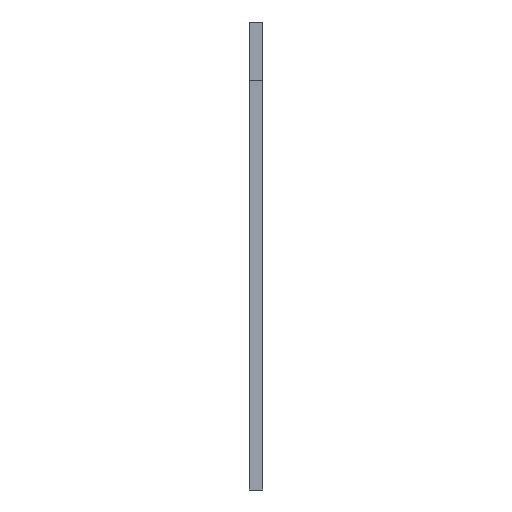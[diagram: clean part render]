
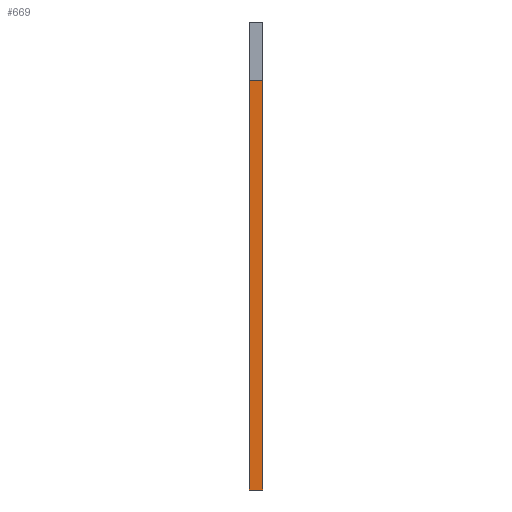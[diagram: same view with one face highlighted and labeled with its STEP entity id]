
A CAD part, left-side view. The second image highlights one B-rep face of the part: STEP entity #669.
In plain terms, the highlighted planar face has unit normal (-1, 0, 0).
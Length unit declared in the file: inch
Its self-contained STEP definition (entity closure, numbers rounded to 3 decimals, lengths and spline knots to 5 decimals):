
#11 = DIRECTION ( 'NONE',  ( 1., 0., 0. ) ) ;
#18 = LINE ( 'NONE', #88, #377 ) ;
#32 = ORIENTED_EDGE ( 'NONE', *, *, #134, .F. ) ;
#39 = EDGE_CURVE ( 'NONE', #464, #750, #418, .T. ) ;
#41 = LINE ( 'NONE', #868, #780 ) ;
#51 = ORIENTED_EDGE ( 'NONE', *, *, #272, .T. ) ;
#88 = CARTESIAN_POINT ( 'NONE',  ( -16.5, 0., 6.75 ) ) ;
#91 = VECTOR ( 'NONE', #559, 39.37008 ) ;
#119 = LINE ( 'NONE', #854, #91 ) ;
#124 = ORIENTED_EDGE ( 'NONE', *, *, #825, .T. ) ;
#126 = CARTESIAN_POINT ( 'NONE',  ( -16.5, 0., 9. ) ) ;
#134 = EDGE_CURVE ( 'NONE', #240, #460, #119, .T. ) ;
#142 = ORIENTED_EDGE ( 'NONE', *, *, #39, .T. ) ;
#233 = VECTOR ( 'NONE', #921, 39.37008 ) ;
#240 = VERTEX_POINT ( 'NONE', #248 ) ;
#248 = CARTESIAN_POINT ( 'NONE',  ( -16.5, 0.5, -9. ) ) ;
#272 = EDGE_CURVE ( 'NONE', #750, #460, #18, .T. ) ;
#354 = CARTESIAN_POINT ( 'NONE',  ( -16.5, 0.5, 9. ) ) ;
#377 = VECTOR ( 'NONE', #809, 39.37008 ) ;
#416 = DIRECTION ( 'NONE',  ( 0., 0., -1. ) ) ;
#418 = LINE ( 'NONE', #126, #233 ) ;
#428 = FACE_OUTER_BOUND ( 'NONE', #716, .T. ) ;
#460 = VERTEX_POINT ( 'NONE', #904 ) ;
#464 = VERTEX_POINT ( 'NONE', #481 ) ;
#481 = CARTESIAN_POINT ( 'NONE',  ( -16.5, 0., -9. ) ) ;
#559 = DIRECTION ( 'NONE',  ( 0., 0., 1. ) ) ;
#648 = DIRECTION ( 'NONE',  ( 0., -1., 0. ) ) ;
#669 = ADVANCED_FACE ( 'NONE', ( #428 ), #866, .F. ) ;
#688 = CARTESIAN_POINT ( 'NONE',  ( -16.5, 0., 6.75 ) ) ;
#716 = EDGE_LOOP ( 'NONE', ( #142, #51, #32, #124 ) ) ;
#750 = VERTEX_POINT ( 'NONE', #688 ) ;
#780 = VECTOR ( 'NONE', #648, 39.37008 ) ;
#809 = DIRECTION ( 'NONE',  ( 0., 1., 0. ) ) ;
#825 = EDGE_CURVE ( 'NONE', #240, #464, #41, .T. ) ;
#830 = AXIS2_PLACEMENT_3D ( 'NONE', #354, #11, #416 ) ;
#854 = CARTESIAN_POINT ( 'NONE',  ( -16.5, 0.5, 9. ) ) ;
#866 = PLANE ( 'NONE',  #830 ) ;
#868 = CARTESIAN_POINT ( 'NONE',  ( -16.5, 0.5, -9. ) ) ;
#904 = CARTESIAN_POINT ( 'NONE',  ( -16.5, 0.5, 6.75 ) ) ;
#921 = DIRECTION ( 'NONE',  ( 0., 0., 1. ) ) ;
